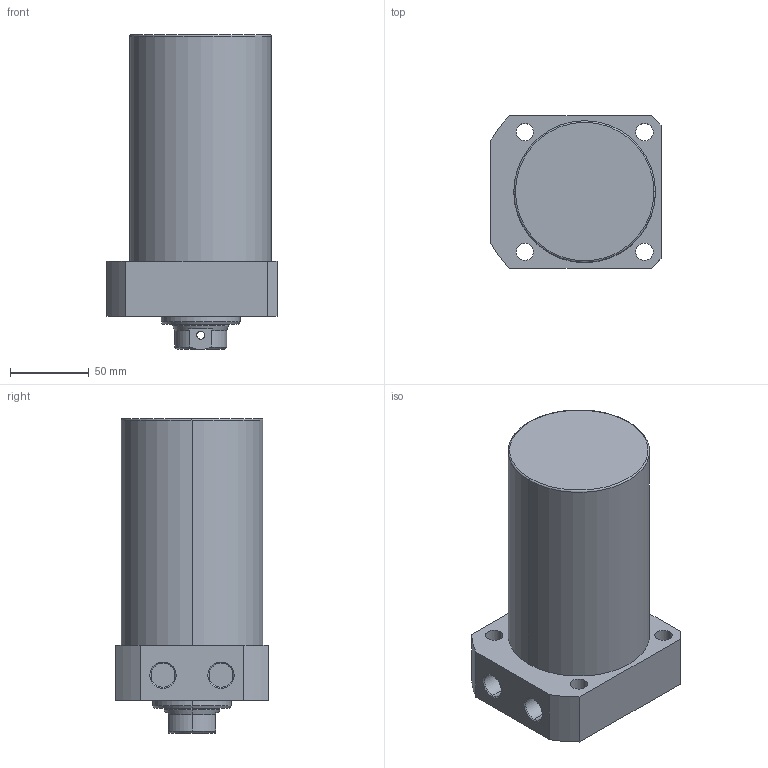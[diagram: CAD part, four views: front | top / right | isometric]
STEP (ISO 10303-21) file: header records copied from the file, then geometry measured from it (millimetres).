
FILE_DESCRIPTION (( 'STEP AP203' ), '1' );
FILE_NAME ('CLLR-090CB-100.STEP', '2019-12-18T06:14:28', ( '' ), ( '' ), 'SwSTEP 2.0', 'SolidWorks 2015', '' );
FILE_SCHEMA (( 'CONFIG_CONTROL_DESIGN' ));
Length unit declared in the file: millimetre
Products named in the file (1): CLLR-090CB-100
Bounding box: 108 x 97 x 200 mm (x, y, z)
Volume: 1264744.9 mm3; surface area: 85925.6 mm2
Topology: 1 solids, 1 shells, 69 faces, 163 edges, 102 vertices
Faces by surface type: cylinder 33, plane 19, cone 15, torus 2
Entity records: 2229 total; most frequent: CARTESIAN_POINT 497, DIRECTION 370, ORIENTED_EDGE 322, EDGE_CURVE 161, AXIS2_PLACEMENT_3D 151, VERTEX_POINT 102, EDGE_LOOP 89, CIRCLE 81
